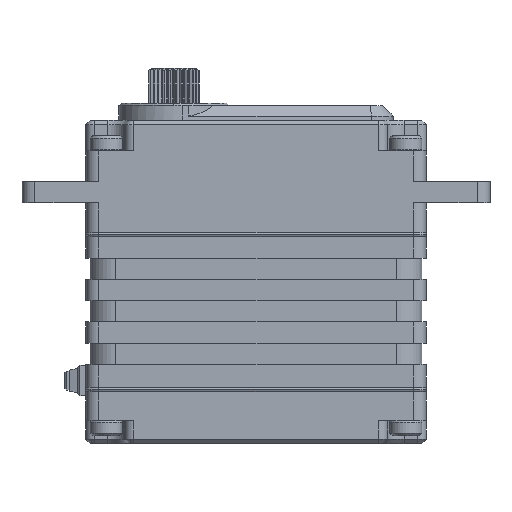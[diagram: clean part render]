
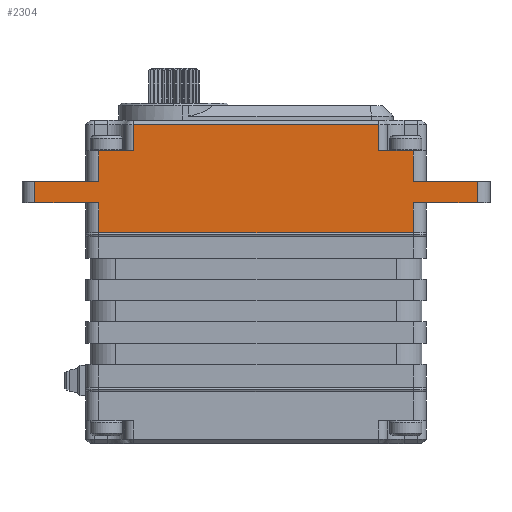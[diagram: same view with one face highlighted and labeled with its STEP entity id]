
A CAD part, front view. The second image highlights one B-rep face of the part: STEP entity #2304.
In plain terms, the highlighted planar face has unit normal (0, -1, 0).
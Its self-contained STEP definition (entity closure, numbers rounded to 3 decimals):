
#982 = VERTEX_POINT ( 'NONE', #21558 ) ;
#1007 = ORIENTED_EDGE ( 'NONE', *, *, #1578, .T. ) ;
#1090 = DIRECTION ( 'NONE',  ( 1., 0., 0. ) ) ;
#1115 = VECTOR ( 'NONE', #13427, 1000. ) ;
#1578 = EDGE_CURVE ( 'NONE', #4978, #8157, #8639, .T. ) ;
#1604 = LINE ( 'NONE', #7661, #25636 ) ;
#1606 = DIRECTION ( 'NONE',  ( 0., 0., -1. ) ) ;
#1775 = FACE_OUTER_BOUND ( 'NONE', #22144, .T. ) ;
#2277 = CARTESIAN_POINT ( 'NONE',  ( 6.803, 25.209, 11.824 ) ) ;
#2304 = ADVANCED_FACE ( 'NONE', ( #1775 ), #19571, .T. ) ;
#2779 = VECTOR ( 'NONE', #13553, 1000. ) ;
#2915 = CARTESIAN_POINT ( 'NONE',  ( -0.697, 25.209, 9.324 ) ) ;
#3323 = ORIENTED_EDGE ( 'NONE', *, *, #26100, .T. ) ;
#3779 = CARTESIAN_POINT ( 'NONE',  ( -37.697, 25.209, 15.424 ) ) ;
#4089 = CARTESIAN_POINT ( 'NONE',  ( -33.597, 25.209, 18.524 ) ) ;
#4146 = EDGE_CURVE ( 'NONE', #8157, #7439, #24408, .T. ) ;
#4169 = VECTOR ( 'NONE', #4459, 1000. ) ;
#4254 = EDGE_CURVE ( 'NONE', #6388, #21935, #12270, .T. ) ;
#4375 = CARTESIAN_POINT ( 'NONE',  ( -0.697, 25.209, 6.239 ) ) ;
#4439 = VECTOR ( 'NONE', #23306, 1000. ) ;
#4459 = DIRECTION ( 'NONE',  ( 0., 0., 1. ) ) ;
#4695 = LINE ( 'NONE', #17406, #6974 ) ;
#4794 = CARTESIAN_POINT ( 'NONE',  ( -33.597, 25.209, 6.239 ) ) ;
#4810 = VECTOR ( 'NONE', #22425, 1000. ) ;
#4897 = CARTESIAN_POINT ( 'NONE',  ( -4.797, 25.209, 18.524 ) ) ;
#4978 = VERTEX_POINT ( 'NONE', #3779 ) ;
#4985 = CARTESIAN_POINT ( 'NONE',  ( 9.403, 25.209, 11.824 ) ) ;
#5287 = CARTESIAN_POINT ( 'NONE',  ( -33.597, 25.209, 15.424 ) ) ;
#5329 = CARTESIAN_POINT ( 'NONE',  ( 9.403, 25.209, 15.424 ) ) ;
#5345 = ORIENTED_EDGE ( 'NONE', *, *, #6702, .T. ) ;
#5924 = AXIS2_PLACEMENT_3D ( 'NONE', #21541, #15019, #9500 ) ;
#6388 = VERTEX_POINT ( 'NONE', #19779 ) ;
#6702 = EDGE_CURVE ( 'NONE', #8927, #16567, #20728, .T. ) ;
#6894 = CARTESIAN_POINT ( 'NONE',  ( 6.803, 25.209, 9.324 ) ) ;
#6974 = VECTOR ( 'NONE', #1090, 1000. ) ;
#7088 = LINE ( 'NONE', #4375, #4169 ) ;
#7171 = DIRECTION ( 'NONE',  ( -1., 0., 0. ) ) ;
#7422 = VERTEX_POINT ( 'NONE', #21816 ) ;
#7439 = VERTEX_POINT ( 'NONE', #9380 ) ;
#7458 = VECTOR ( 'NONE', #9133, 1000. ) ;
#7643 = VECTOR ( 'NONE', #20720, 1000. ) ;
#7661 = CARTESIAN_POINT ( 'NONE',  ( -37.697, 25.209, 6.239 ) ) ;
#8157 = VERTEX_POINT ( 'NONE', #17048 ) ;
#8639 = LINE ( 'NONE', #26200, #23357 ) ;
#8645 = DIRECTION ( 'NONE',  ( 1., 0., 0. ) ) ;
#8927 = VERTEX_POINT ( 'NONE', #6894 ) ;
#9133 = DIRECTION ( 'NONE',  ( -1., 0., 0. ) ) ;
#9380 = CARTESIAN_POINT ( 'NONE',  ( -45.197, 25.209, 11.824 ) ) ;
#9500 = DIRECTION ( 'NONE',  ( 0., 0., 1. ) ) ;
#9610 = EDGE_CURVE ( 'NONE', #24833, #16480, #12092, .T. ) ;
#9946 = ORIENTED_EDGE ( 'NONE', *, *, #16148, .T. ) ;
#10524 = VERTEX_POINT ( 'NONE', #2915 ) ;
#10636 = LINE ( 'NONE', #20902, #18321 ) ;
#11122 = VERTEX_POINT ( 'NONE', #5287 ) ;
#11354 = EDGE_CURVE ( 'NONE', #20097, #23914, #10636, .T. ) ;
#11477 = CARTESIAN_POINT ( 'NONE',  ( -0.697, 25.209, 6.239 ) ) ;
#11525 = ORIENTED_EDGE ( 'NONE', *, *, #20117, .T. ) ;
#12092 = LINE ( 'NONE', #21448, #25525 ) ;
#12270 = LINE ( 'NONE', #25743, #21537 ) ;
#12491 = EDGE_CURVE ( 'NONE', #10524, #8927, #4695, .T. ) ;
#13014 = ORIENTED_EDGE ( 'NONE', *, *, #9610, .T. ) ;
#13427 = DIRECTION ( 'NONE',  ( 0., 0., 1. ) ) ;
#13553 = DIRECTION ( 'NONE',  ( 0., 0., 1. ) ) ;
#13587 = LINE ( 'NONE', #24048, #23181 ) ;
#13892 = ORIENTED_EDGE ( 'NONE', *, *, #24684, .T. ) ;
#13995 = DIRECTION ( 'NONE',  ( 0., 0., -1. ) ) ;
#14507 = ORIENTED_EDGE ( 'NONE', *, *, #23327, .T. ) ;
#14584 = EDGE_CURVE ( 'NONE', #23914, #10524, #7088, .T. ) ;
#15019 = DIRECTION ( 'NONE',  ( 0., -1., 0. ) ) ;
#15292 = DIRECTION ( 'NONE',  ( 0., 0., -1. ) ) ;
#15604 = CARTESIAN_POINT ( 'NONE',  ( 6.803, 25.209, 6.239 ) ) ;
#15612 = CARTESIAN_POINT ( 'NONE',  ( -37.697, 25.209, 5.824 ) ) ;
#15639 = ORIENTED_EDGE ( 'NONE', *, *, #11354, .T. ) ;
#15915 = DIRECTION ( 'NONE',  ( -1., 0., 0. ) ) ;
#15965 = CARTESIAN_POINT ( 'NONE',  ( -45.197, 25.209, 9.324 ) ) ;
#16000 = CARTESIAN_POINT ( 'NONE',  ( -4.797, 25.209, 15.424 ) ) ;
#16148 = EDGE_CURVE ( 'NONE', #16480, #11122, #25730, .T. ) ;
#16480 = VERTEX_POINT ( 'NONE', #4089 ) ;
#16567 = VERTEX_POINT ( 'NONE', #2277 ) ;
#17048 = CARTESIAN_POINT ( 'NONE',  ( -37.697, 25.209, 11.824 ) ) ;
#17314 = ORIENTED_EDGE ( 'NONE', *, *, #24018, .T. ) ;
#17406 = CARTESIAN_POINT ( 'NONE',  ( 9.403, 25.209, 9.324 ) ) ;
#17845 = ORIENTED_EDGE ( 'NONE', *, *, #4254, .T. ) ;
#18159 = CARTESIAN_POINT ( 'NONE',  ( 9.403, 25.209, 9.324 ) ) ;
#18321 = VECTOR ( 'NONE', #8645, 1000. ) ;
#18776 = LINE ( 'NONE', #11477, #1115 ) ;
#18947 = LINE ( 'NONE', #18159, #4810 ) ;
#19191 = CARTESIAN_POINT ( 'NONE',  ( -4.797, 25.209, 6.239 ) ) ;
#19349 = DIRECTION ( 'NONE',  ( -1., 0., 0. ) ) ;
#19571 = PLANE ( 'NONE',  #5924 ) ;
#19591 = EDGE_CURVE ( 'NONE', #16567, #7422, #13587, .T. ) ;
#19726 = ORIENTED_EDGE ( 'NONE', *, *, #12491, .T. ) ;
#19779 = CARTESIAN_POINT ( 'NONE',  ( -0.697, 25.209, 15.424 ) ) ;
#20097 = VERTEX_POINT ( 'NONE', #15612 ) ;
#20117 = EDGE_CURVE ( 'NONE', #982, #20097, #1604, .T. ) ;
#20720 = DIRECTION ( 'NONE',  ( 0., 0., -1. ) ) ;
#20728 = LINE ( 'NONE', #15604, #2779 ) ;
#20840 = LINE ( 'NONE', #19191, #4439 ) ;
#20902 = CARTESIAN_POINT ( 'NONE',  ( 9.403, 25.209, 5.824 ) ) ;
#21080 = ORIENTED_EDGE ( 'NONE', *, *, #4146, .T. ) ;
#21168 = VERTEX_POINT ( 'NONE', #15965 ) ;
#21190 = DIRECTION ( 'NONE',  ( -1., 0., 0. ) ) ;
#21448 = CARTESIAN_POINT ( 'NONE',  ( 9.403, 25.209, 18.524 ) ) ;
#21537 = VECTOR ( 'NONE', #19349, 1000. ) ;
#21541 = CARTESIAN_POINT ( 'NONE',  ( 9.403, 25.209, 6.239 ) ) ;
#21558 = CARTESIAN_POINT ( 'NONE',  ( -37.697, 25.209, 9.324 ) ) ;
#21816 = CARTESIAN_POINT ( 'NONE',  ( -0.697, 25.209, 11.824 ) ) ;
#21935 = VERTEX_POINT ( 'NONE', #16000 ) ;
#22144 = EDGE_LOOP ( 'NONE', ( #17845, #25294, #13014, #9946, #3323, #1007, #21080, #13892, #17314, #11525, #15639, #22479, #19726, #5345, #22619, #14507 ) ) ;
#22425 = DIRECTION ( 'NONE',  ( 1., 0., 0. ) ) ;
#22479 = ORIENTED_EDGE ( 'NONE', *, *, #14584, .T. ) ;
#22619 = ORIENTED_EDGE ( 'NONE', *, *, #19591, .T. ) ;
#22845 = CARTESIAN_POINT ( 'NONE',  ( -45.197, 25.209, 6.239 ) ) ;
#23181 = VECTOR ( 'NONE', #15915, 1000. ) ;
#23200 = VECTOR ( 'NONE', #15292, 1000. ) ;
#23306 = DIRECTION ( 'NONE',  ( 0., 0., 1. ) ) ;
#23327 = EDGE_CURVE ( 'NONE', #7422, #6388, #18776, .T. ) ;
#23357 = VECTOR ( 'NONE', #13995, 1000. ) ;
#23914 = VERTEX_POINT ( 'NONE', #25278 ) ;
#24018 = EDGE_CURVE ( 'NONE', #21168, #982, #18947, .T. ) ;
#24048 = CARTESIAN_POINT ( 'NONE',  ( 9.403, 25.209, 11.824 ) ) ;
#24247 = EDGE_CURVE ( 'NONE', #21935, #24833, #20840, .T. ) ;
#24408 = LINE ( 'NONE', #4985, #25979 ) ;
#24684 = EDGE_CURVE ( 'NONE', #7439, #21168, #25858, .T. ) ;
#24833 = VERTEX_POINT ( 'NONE', #4897 ) ;
#25278 = CARTESIAN_POINT ( 'NONE',  ( -0.697, 25.209, 5.824 ) ) ;
#25294 = ORIENTED_EDGE ( 'NONE', *, *, #24247, .T. ) ;
#25525 = VECTOR ( 'NONE', #21190, 1000. ) ;
#25636 = VECTOR ( 'NONE', #1606, 1000. ) ;
#25696 = LINE ( 'NONE', #5329, #7458 ) ;
#25730 = LINE ( 'NONE', #4794, #23200 ) ;
#25743 = CARTESIAN_POINT ( 'NONE',  ( 9.403, 25.209, 15.424 ) ) ;
#25858 = LINE ( 'NONE', #22845, #7643 ) ;
#25979 = VECTOR ( 'NONE', #7171, 1000. ) ;
#26100 = EDGE_CURVE ( 'NONE', #11122, #4978, #25696, .T. ) ;
#26200 = CARTESIAN_POINT ( 'NONE',  ( -37.697, 25.209, 6.239 ) ) ;
